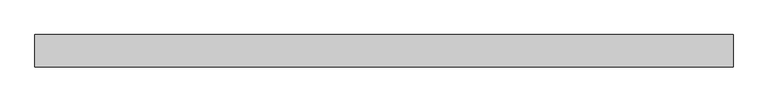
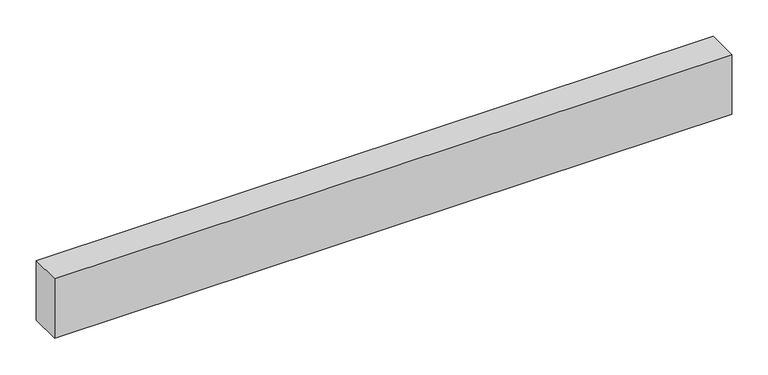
"""IFC4 building model written with IfcOpenShell, lengths in millimetres: proxy geometry, Building-Materials_Other_Daliform_Simple-Family_Accessory_PANEL_for ATLANTIS : PANEL_ATLANTIS_diam110_5x100x10."""

from ifc_helpers import new_model, si_unit, origin, origin_with_axes, place, context, project, spatial, polyline, outline, extrude, source, transform, mapped, element, save


def generic_models_3906c24f(model_context):
    return source(origin(), model_context, "Body", "SweptSolid", [
        extrude(outline(polyline([(0.0, 50.0), (1072.8853879, 50.0), (1072.8853879, 0.0), (0.0, 0.0), (0.0, 50.0)])), origin_with_axes(), (0.0, 0.0, 1.0), 100.0),
    ])


if __name__ == "__main__":
    model = new_model("IFC4")
    model_context = context("Model", 3, world=origin())
    ifc_project = project(units=[si_unit("LENGTHUNIT", "METRE", prefix="MILLI")], contexts=[model_context])
    site = spatial("IfcSite", under=ifc_project)
    building = spatial("IfcBuilding", under=site)
    placement = place(None, origin())
    generic_models_shape = generic_models_3906c24f(model_context)
    element("IfcBuildingElementProxy", 1, Name="Building-Materials_Other_Daliform_Simple-Family_Accessory_PANEL_for ATLANTIS : PANEL_ATLANTIS_diam110_5x100x10", ObjectType="Building-Materials_Other_Daliform_Simple-Family_Accessory_PANEL_for ATLANTIS : PANEL_ATLANTIS_diam110_5x100x10", at=placement, inside=building, context=model_context, shape_type="MappedRepresentation", body=[
        mapped(generic_models_shape, transform((0.0, 0.0, 0.0), x_axis=(1.0, 0.0, 0.0), y_axis=(0.0, 1.0, 0.0), z_axis=(0.0, 0.0, 1.0))),
    ])
    save(model, "model.ifc")
